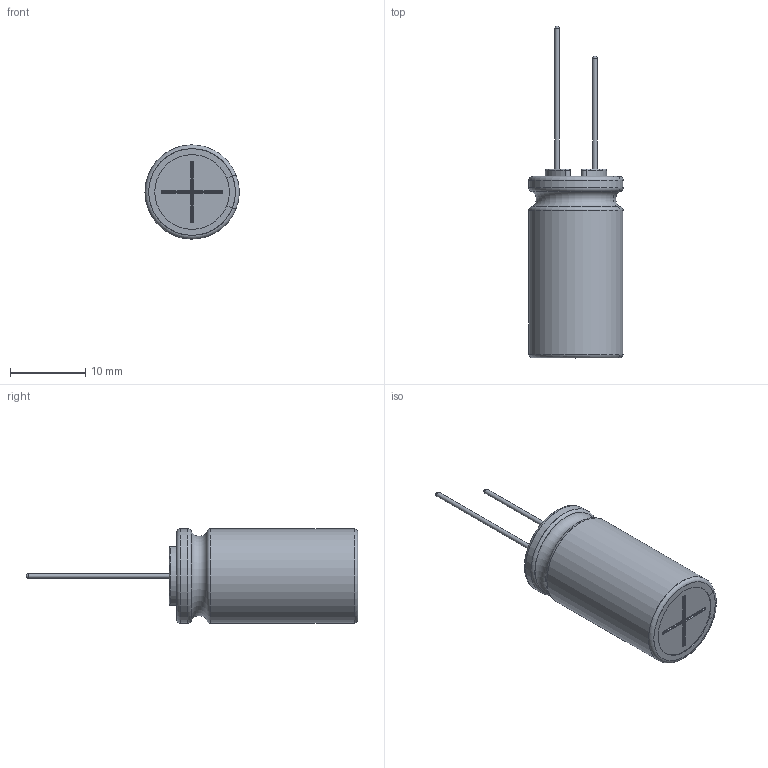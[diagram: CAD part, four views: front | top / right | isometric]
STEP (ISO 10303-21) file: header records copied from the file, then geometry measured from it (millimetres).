
FILE_DESCRIPTION(/* description */ (''),/* implementation_level */ '2;1');
FILE_NAME(/* name */ '12.5x25_Lead.stp',/* time_stamp */ '2017-09-05T14:25:01+09:00',/* author */ (''),/* organization */ (''),/* preprocessor_version */ 'ST-DEVELOPER v16',/* originating_system */ 'SIEMENS PLM Software NX 11.0',/* authorisation */ '');
FILE_SCHEMA (('AUTOMOTIVE_DESIGN { 1 0 10303 214 3 1 1 1 }'));
Length unit declared in the file: millimetre
Products named in the file (1): 12.5x25_Lead_0
Bounding box: 12.48 x 44 x 12.5 mm (x, y, z)
Volume: 2904.7 mm3; surface area: 3342.9 mm2
Topology: 3 solids, 3 shells, 132 faces, 326 edges, 203 vertices
Faces by surface type: cylinder 50, torus 35, plane 33, sphere 6, bspline 6, extrusion 2
Full cylindrical faces by diameter (mm): 0.6 x2, 12.3 x2
Entity records: 5211 total; most frequent: CARTESIAN_POINT 1361, DIRECTION 748, ORIENTED_EDGE 624, EDGE_CURVE 312, AXIS2_PLACEMENT_3D 311, VERTEX_POINT 200, CIRCLE 174, EDGE_LOOP 146
